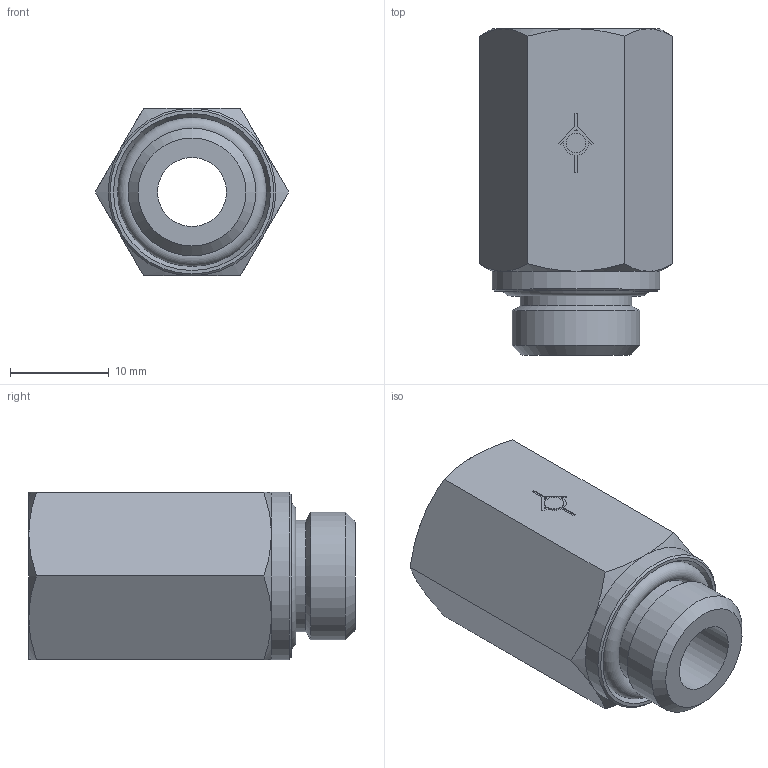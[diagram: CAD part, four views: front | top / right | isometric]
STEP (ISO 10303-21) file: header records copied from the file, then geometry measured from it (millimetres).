
FILE_DESCRIPTION((''),'2;1');
FILE_NAME('D:\INVENTOR\[New Inventor]\CDC Products 3D Ass''y\Check Valves\G\CVPF-G\CVPF G02-G02.stp','2009-02-16T09:16:01',('Microsoft'),(''),'Autodesk Inventor 2008','Autodesk Inventor 2008','');
FILE_SCHEMA(('AUTOMOTIVE_DESIGN { 1 0 10303 214 1 1 1 1 }'));
Length unit declared in the file: millimetre
Products named in the file (1): CVPF G02-G02
Bounding box: 19.63 x 33.1 x 17 mm (x, y, z)
Volume: 5087.8 mm3; surface area: 3500.8 mm2
Topology: 2 solids, 2 shells, 57 faces, 128 edges, 78 vertices
Faces by surface type: plane 29, cone 16, cylinder 10, torus 2
Full cylindrical faces by diameter (mm): 2 x1, 7 x1, 11.3 x2, 12.95 x2, 17 x1
Entity records: 1481 total; most frequent: CARTESIAN_POINT 293, DIRECTION 241, ORIENTED_EDGE 224, EDGE_CURVE 112, AXIS2_PLACEMENT_3D 95, EDGE_LOOP 79, VERTEX_POINT 75, FACE_OUTER_BOUND 57
